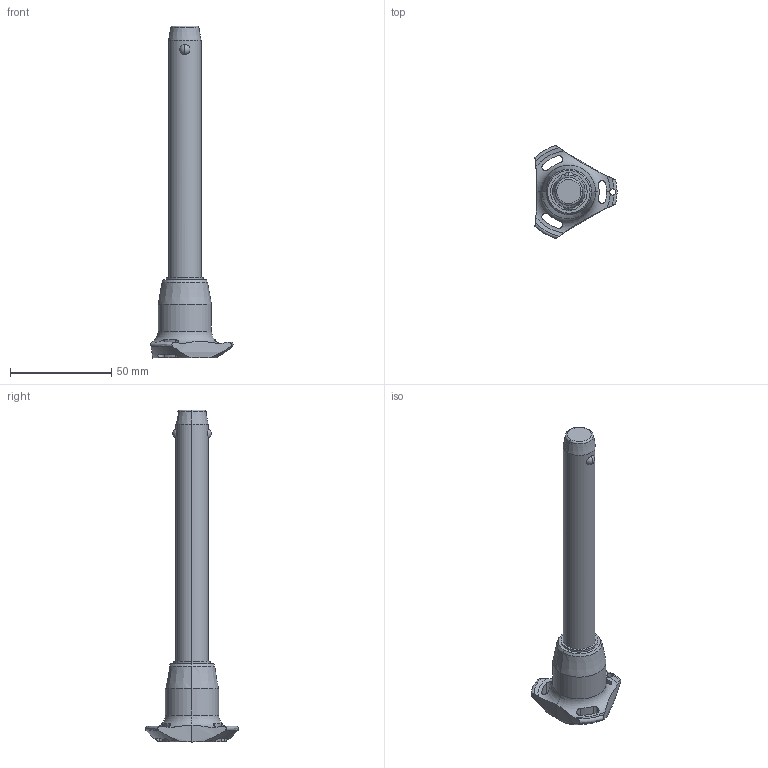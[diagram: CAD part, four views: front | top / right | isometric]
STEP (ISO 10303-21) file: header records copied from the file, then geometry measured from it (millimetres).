
FILE_DESCRIPTION (( 'STEP AP203' ), '1' );
FILE_NAME ('QR1704.M16-110-S.step', '2025-11-12T09:31:40', ( '' ), ( '' ), 'SwSTEP 2.0', 'SolidWorks 2019', '' );
FILE_SCHEMA (( 'CONFIG_CONTROL_DESIGN' ));
Length unit declared in the file: millimetre
Products named in the file (1): QR1704.M16-110-S
Bounding box: 40.5 x 45.88 x 163.7 mm (x, y, z)
Volume: 47213.5 mm3; surface area: 12187.7 mm2
Topology: 1 solids, 1 shells, 65 faces, 178 edges, 113 vertices
Faces by surface type: cylinder 30, cone 14, torus 11, sphere 6, plane 4
Entity records: 2870 total; most frequent: CARTESIAN_POINT 1181, ORIENTED_EDGE 356, DIRECTION 329, EDGE_CURVE 178, AXIS2_PLACEMENT_3D 147, VERTEX_POINT 113, CIRCLE 81, EDGE_LOOP 71
